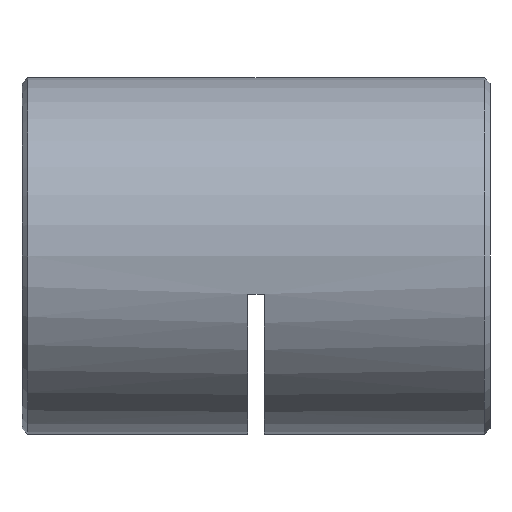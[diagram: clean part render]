
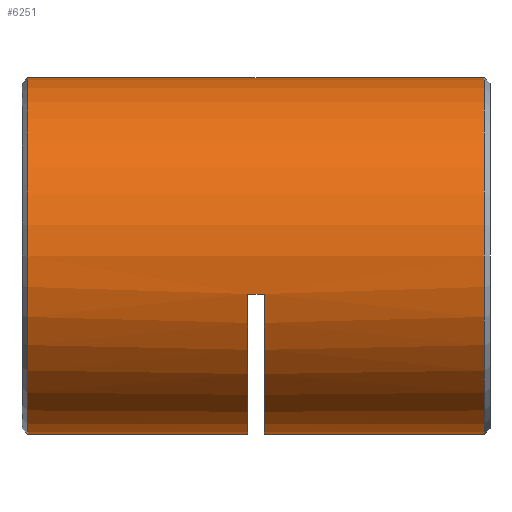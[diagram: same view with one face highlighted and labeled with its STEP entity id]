
A CAD part, left-side view. The second image highlights one B-rep face of the part: STEP entity #6251.
In plain terms, the highlighted cylindrical face has radius 16 mm (diameter 32 mm), a partial arc.
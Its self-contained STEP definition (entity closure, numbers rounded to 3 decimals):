
#99 = CARTESIAN_POINT ( 'NONE',  ( -15.632, 20.5, -3.413 ) ) ;
#425 = DIRECTION ( 'NONE',  ( 0., -1., 0. ) ) ;
#463 = CARTESIAN_POINT ( 'NONE',  ( 0., 42.5, 16. ) ) ;
#555 = AXIS2_PLACEMENT_3D ( 'NONE', #6209, #1734, #4247 ) ;
#700 = ORIENTED_EDGE ( 'NONE', *, *, #2295, .T. ) ;
#751 = AXIS2_PLACEMENT_3D ( 'NONE', #4318, #425, #3874 ) ;
#788 = ORIENTED_EDGE ( 'NONE', *, *, #4677, .F. ) ;
#794 = ORIENTED_EDGE ( 'NONE', *, *, #2162, .T. ) ;
#803 = CIRCLE ( 'NONE', #2111, 16. ) ;
#1038 = DIRECTION ( 'NONE',  ( 0., -1., 0. ) ) ;
#1116 = EDGE_CURVE ( 'NONE', #5498, #2650, #2472, .T. ) ;
#1362 = CARTESIAN_POINT ( 'NONE',  ( 0., 22., -16. ) ) ;
#1410 = CARTESIAN_POINT ( 'NONE',  ( 0., 42.5, -16. ) ) ;
#1537 = EDGE_CURVE ( 'NONE', #2650, #2418, #2702, .T. ) ;
#1541 = CARTESIAN_POINT ( 'NONE',  ( 0., 20.5, 0. ) ) ;
#1555 = DIRECTION ( 'NONE',  ( 0., -1., 0. ) ) ;
#1734 = DIRECTION ( 'NONE',  ( 0., -1., 0. ) ) ;
#1874 = CARTESIAN_POINT ( 'NONE',  ( -15.632, 22., -3.413 ) ) ;
#1877 = EDGE_LOOP ( 'NONE', ( #4545, #4134, #3193, #788, #3089, #794, #700, #4322 ) ) ;
#2033 = VERTEX_POINT ( 'NONE', #3875 ) ;
#2048 = EDGE_CURVE ( 'NONE', #5498, #5609, #4420, .T. ) ;
#2057 = CYLINDRICAL_SURFACE ( 'NONE', #751, 16. ) ;
#2111 = AXIS2_PLACEMENT_3D ( 'NONE', #1541, #5010, #5954 ) ;
#2162 = EDGE_CURVE ( 'NONE', #5360, #4837, #803, .T. ) ;
#2295 = EDGE_CURVE ( 'NONE', #4837, #2033, #3436, .T. ) ;
#2346 = VECTOR ( 'NONE', #3711, 1000. ) ;
#2418 = VERTEX_POINT ( 'NONE', #1362 ) ;
#2427 = DIRECTION ( 'NONE',  ( 0., -1., 0. ) ) ;
#2441 = AXIS2_PLACEMENT_3D ( 'NONE', #3692, #5738, #4669 ) ;
#2451 = FACE_OUTER_BOUND ( 'NONE', #1877, .T. ) ;
#2472 = CIRCLE ( 'NONE', #3643, 16. ) ;
#2650 = VERTEX_POINT ( 'NONE', #4517 ) ;
#2672 = CARTESIAN_POINT ( 'NONE',  ( 0., 42.5, -16. ) ) ;
#2702 = LINE ( 'NONE', #1410, #3948 ) ;
#2818 = VERTEX_POINT ( 'NONE', #1874 ) ;
#3089 = ORIENTED_EDGE ( 'NONE', *, *, #3585, .T. ) ;
#3193 = ORIENTED_EDGE ( 'NONE', *, *, #1537, .T. ) ;
#3349 = CARTESIAN_POINT ( 'NONE',  ( 0., 20.5, -16. ) ) ;
#3436 = LINE ( 'NONE', #2672, #2346 ) ;
#3525 = CARTESIAN_POINT ( 'NONE',  ( -15.632, 21.25, -3.413 ) ) ;
#3585 = EDGE_CURVE ( 'NONE', #2818, #5360, #4312, .T. ) ;
#3604 = CIRCLE ( 'NONE', #2441, 16. ) ;
#3643 = AXIS2_PLACEMENT_3D ( 'NONE', #4513, #1555, #5575 ) ;
#3692 = CARTESIAN_POINT ( 'NONE',  ( 0., 0.75, 0. ) ) ;
#3711 = DIRECTION ( 'NONE',  ( 0., -1., 0. ) ) ;
#3874 = DIRECTION ( 'NONE',  ( 0., 0., -1. ) ) ;
#3875 = CARTESIAN_POINT ( 'NONE',  ( 0., 0.75, -16. ) ) ;
#3940 = DIRECTION ( 'NONE',  ( 0., -1., 0. ) ) ;
#3948 = VECTOR ( 'NONE', #2427, 1000. ) ;
#4134 = ORIENTED_EDGE ( 'NONE', *, *, #1116, .T. ) ;
#4247 = DIRECTION ( 'NONE',  ( 0., 0., -1. ) ) ;
#4312 = LINE ( 'NONE', #3525, #4622 ) ;
#4318 = CARTESIAN_POINT ( 'NONE',  ( 0., 42.5, 0. ) ) ;
#4322 = ORIENTED_EDGE ( 'NONE', *, *, #5661, .T. ) ;
#4420 = LINE ( 'NONE', #463, #5300 ) ;
#4513 = CARTESIAN_POINT ( 'NONE',  ( 0., 41.75, 0. ) ) ;
#4517 = CARTESIAN_POINT ( 'NONE',  ( 0., 41.75, -16. ) ) ;
#4545 = ORIENTED_EDGE ( 'NONE', *, *, #2048, .F. ) ;
#4548 = CARTESIAN_POINT ( 'NONE',  ( 0., 41.75, 16. ) ) ;
#4622 = VECTOR ( 'NONE', #1038, 1000. ) ;
#4669 = DIRECTION ( 'NONE',  ( 0., 0., 1. ) ) ;
#4677 = EDGE_CURVE ( 'NONE', #2818, #2418, #5399, .T. ) ;
#4837 = VERTEX_POINT ( 'NONE', #3349 ) ;
#5010 = DIRECTION ( 'NONE',  ( 0., -1., 0. ) ) ;
#5126 = CARTESIAN_POINT ( 'NONE',  ( 0., 0.75, 16. ) ) ;
#5300 = VECTOR ( 'NONE', #3940, 1000. ) ;
#5360 = VERTEX_POINT ( 'NONE', #99 ) ;
#5399 = CIRCLE ( 'NONE', #555, 16. ) ;
#5498 = VERTEX_POINT ( 'NONE', #4548 ) ;
#5575 = DIRECTION ( 'NONE',  ( 0., 0., -1. ) ) ;
#5609 = VERTEX_POINT ( 'NONE', #5126 ) ;
#5661 = EDGE_CURVE ( 'NONE', #2033, #5609, #3604, .T. ) ;
#5738 = DIRECTION ( 'NONE',  ( 0., 1., 0. ) ) ;
#5954 = DIRECTION ( 'NONE',  ( 0., 0., -1. ) ) ;
#6209 = CARTESIAN_POINT ( 'NONE',  ( 0., 22., 0. ) ) ;
#6251 = ADVANCED_FACE ( 'NONE', ( #2451 ), #2057, .T. ) ;
